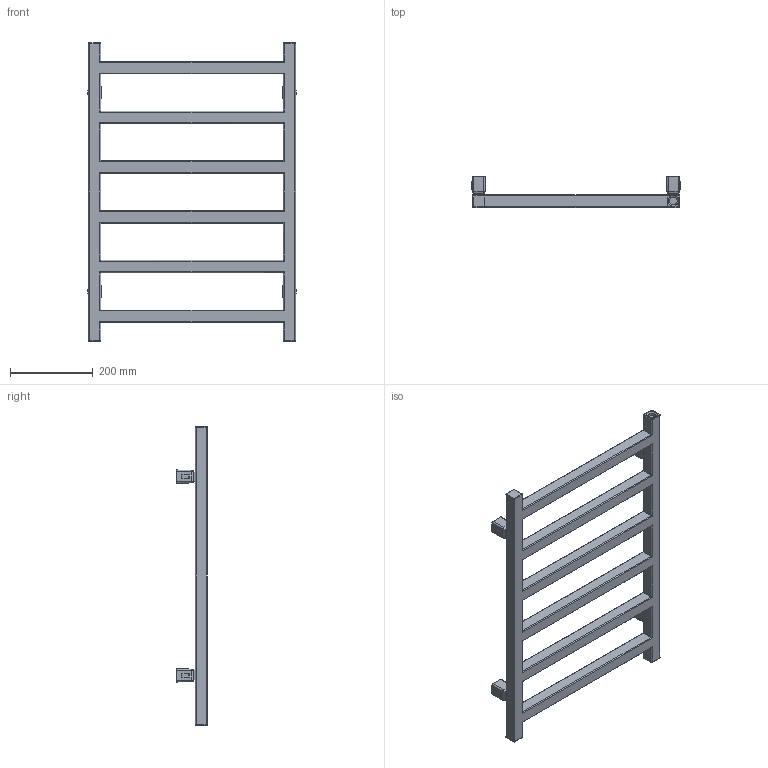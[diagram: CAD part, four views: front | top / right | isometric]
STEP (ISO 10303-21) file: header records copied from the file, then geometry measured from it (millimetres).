
FILE_DESCRIPTION((''),'2;1');
FILE_NAME('Z:\R\G\P\RGP035 - Grzejnik Simple\Work\Inventor\Marketing\AutoCad 3D\G-SI-XX-MK-XX-72-50-SX.stp','2012-07-24T13:47:04',('DawPi'),(''),'Autodesk Inventor 2012','Autodesk Inventor 2012','');
FILE_SCHEMA(('AUTOMOTIVE_DESIGN { 1 0 10303 214 1 1 1 1 }'));
Length unit declared in the file: millimetre
Products named in the file (3): G-SI-XX-MK-XX-72-50-SX; MKT42-00-A v0.2
Assembly tree (5 placements, depth 2):
  G-SI-XX-MK-XX-72-50-SX
    G-SI-XX-MK-XX-72-50-SX
    MKT42-00-A v0.2  x4
Bounding box: 503.98 x 74.5 x 720 mm (x, y, z)
Volume: 3801970.6 mm3; surface area: 501412.4 mm2
Topology: 5 solids, 5 shells, 407 faces, 995 edges, 629 vertices
Faces by surface type: cylinder 183, plane 153, bspline 60, torus 11
Full cylindrical faces by diameter (mm): 4.134 x4, 10 x4, 12 x4, 18.631 x3
Entity records: 7921 total; most frequent: CARTESIAN_POINT 2845, DIRECTION 1028, ORIENTED_EDGE 1022, EDGE_CURVE 511, AXIS2_PLACEMENT_3D 390, VERTEX_POINT 335, EDGE_LOOP 260, VECTOR 248
